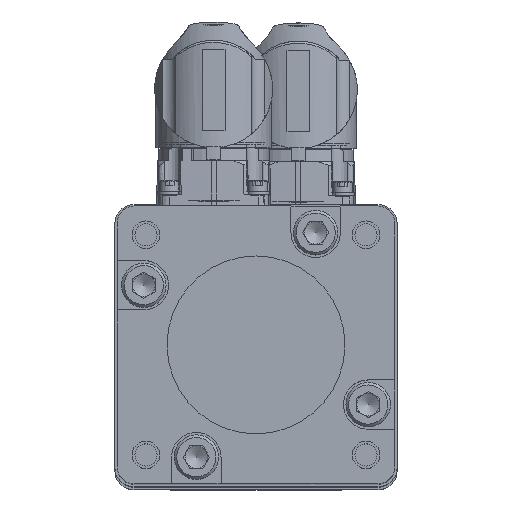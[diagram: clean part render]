
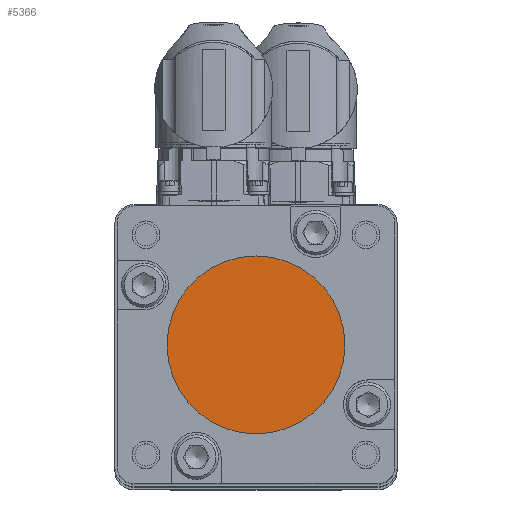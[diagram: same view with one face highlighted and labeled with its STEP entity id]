
A CAD part, top view. The second image highlights one B-rep face of the part: STEP entity #5366.
In plain terms, the highlighted planar face has unit normal (0, 0, 1).
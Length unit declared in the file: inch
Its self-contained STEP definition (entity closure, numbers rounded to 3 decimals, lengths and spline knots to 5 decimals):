
#5366 = ADVANCED_FACE ( 'NONE', ( #28278 ), #16947, .T. ) ;
#8686 = ORIENTED_EDGE ( 'NONE', *, *, #43566, .T. ) ;
#13381 = CARTESIAN_POINT ( 'NONE',  ( 0., 0., 4.9604 ) ) ;
#16356 = EDGE_LOOP ( 'NONE', ( #8686 ) ) ;
#16697 = DIRECTION ( 'NONE',  ( 0., 0., 1. ) ) ;
#16947 = PLANE ( 'NONE',  #20435 ) ;
#20435 = AXIS2_PLACEMENT_3D ( 'NONE', #35685, #16697, #24341 ) ;
#24042 = AXIS2_PLACEMENT_3D ( 'NONE', #13381, #42773, #39790 ) ;
#24341 = DIRECTION ( 'NONE',  ( 1., 0., 0. ) ) ;
#27846 = VERTEX_POINT ( 'NONE', #31761 ) ;
#28278 = FACE_OUTER_BOUND ( 'NONE', #16356, .T. ) ;
#31761 = CARTESIAN_POINT ( 'NONE',  ( 0.7874, 0., 4.9604 ) ) ;
#35685 = CARTESIAN_POINT ( 'NONE',  ( 0., 0., 4.9604 ) ) ;
#39790 = DIRECTION ( 'NONE',  ( 1., 0., 0. ) ) ;
#42773 = DIRECTION ( 'NONE',  ( 0., 0., 1. ) ) ;
#43566 = EDGE_CURVE ( 'NONE', #27846, #27846, #48466, .T. ) ;
#48466 = CIRCLE ( 'NONE', #24042, 0.7874 ) ;
